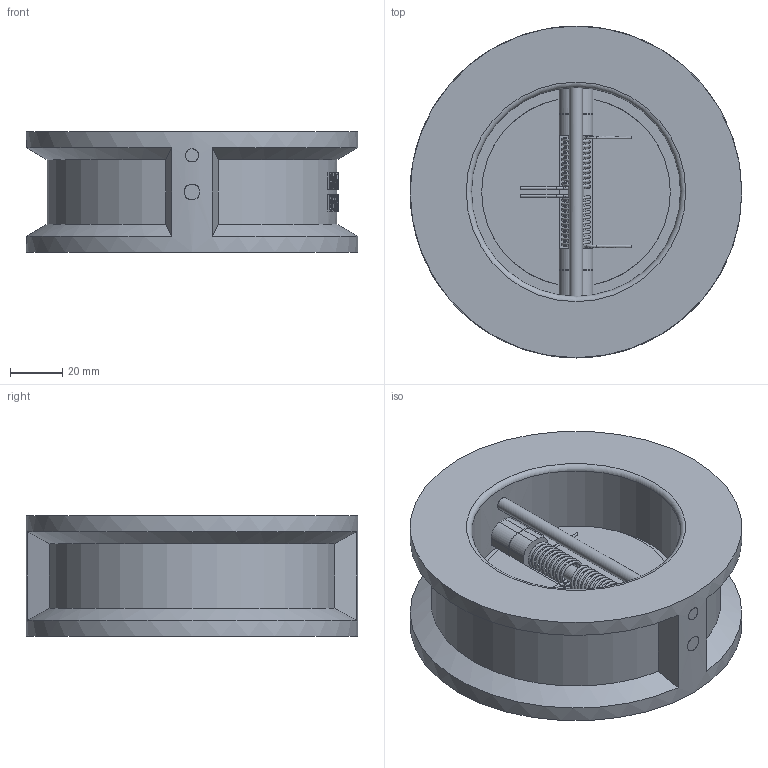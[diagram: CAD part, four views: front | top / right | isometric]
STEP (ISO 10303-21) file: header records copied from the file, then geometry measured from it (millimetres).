
FILE_DESCRIPTION( ( 'Unknown' ), '1' );
FILE_NAME( 'C:/Documents and Settings/Klaus/My Documents/Rootsi BPS 3D, Klaus/BPS 6527 double-door swing check valve/STEP/BPS6527065 double door swing check valve DN65.stp', 'Unknown', ( 'Unknown' ), ( 'Unknown' ), 'PSStep 10.1', 'Unknown', ' ' );
FILE_SCHEMA( ( 'AUTOMOTIVE_DESIGN { 1 0 10303 214 1 1 1 1 }' ) );
Length unit declared in the file: millimetre
Products named in the file (1): 1
Bounding box: 127 x 127 x 46 mm (x, y, z)
Volume: 353976.2 mm3; surface area: 61841.6 mm2
Topology: 1 solids, 1 shells, 287 faces, 697 edges, 450 vertices
Faces by surface type: plane 121, bspline 89, cylinder 64, torus 7, cone 6
Full cylindrical faces by diameter (mm): 1 x6, 5 x1, 6 x3, 72.2 x1, 80 x1, 127 x1
Entity records: 21752 total; most frequent: CARTESIAN_POINT 14017, ORIENTED_EDGE 1320, DIRECTION 666, EDGE_CURVE 660, B_SPLINE_CURVE_WITH_KNOTS 474, VERTEX_POINT 442, EDGE_LOOP 366, FACE_OUTER_BOUND 315
